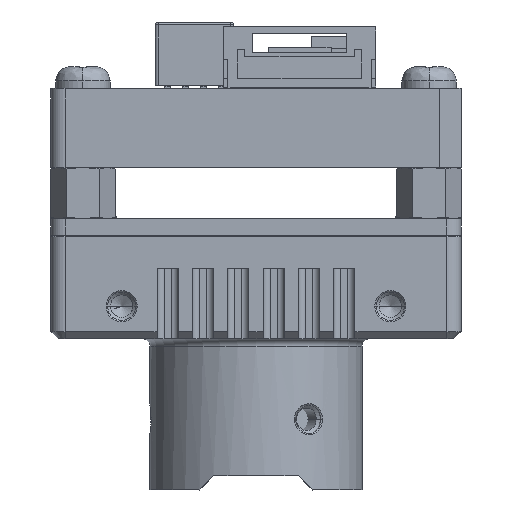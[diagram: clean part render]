
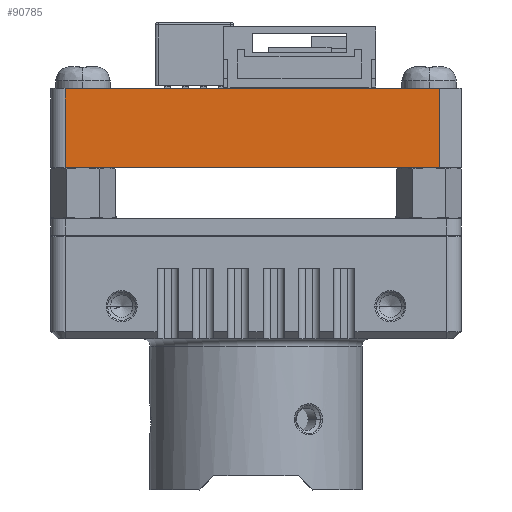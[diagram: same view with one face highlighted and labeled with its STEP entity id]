
A CAD part, left-side view. The second image highlights one B-rep face of the part: STEP entity #90785.
In plain terms, the highlighted planar face has unit normal (-1, 0, 0).
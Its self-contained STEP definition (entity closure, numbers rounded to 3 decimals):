
#2136=DIRECTION('',(0.,0.,-1.));
#2137=VECTOR('',#2136,5.6);
#2138=CARTESIAN_POINT('',(-14.5,-13.,10.4));
#2139=LINE('',#2138,#2137);
#2140=DIRECTION('',(0.,1.,0.));
#2141=VECTOR('',#2140,26.5);
#2142=CARTESIAN_POINT('',(-14.5,-13.,4.8));
#2143=LINE('',#2142,#2141);
#2144=DIRECTION('',(0.,0.,-1.));
#2145=VECTOR('',#2144,1.2);
#2146=CARTESIAN_POINT('',(-14.5,13.5,10.4));
#2147=LINE('',#2146,#2145);
#2148=DIRECTION('',(0.,0.,-1.));
#2149=VECTOR('',#2148,4.4);
#2150=CARTESIAN_POINT('',(-14.5,13.5,9.2));
#2151=LINE('',#2150,#2149);
#2282=DIRECTION('',(0.,1.,0.));
#2283=VECTOR('',#2282,26.5);
#2284=CARTESIAN_POINT('',(-14.5,-13.,10.4));
#2285=LINE('',#2284,#2283);
#75608=CARTESIAN_POINT('',(-14.5,-13.,4.8));
#75610=VERTEX_POINT('',#75608);
#75621=CARTESIAN_POINT('',(-14.5,13.5,4.8));
#75623=VERTEX_POINT('',#75621);
#81019=CARTESIAN_POINT('',(-14.5,-13.,10.4));
#81020=VERTEX_POINT('',#81019);
#81021=CARTESIAN_POINT('',(-14.5,13.5,10.4));
#81022=VERTEX_POINT('',#81021);
#89150=CARTESIAN_POINT('',(-14.5,13.5,9.2));
#89151=VERTEX_POINT('',#89150);
#90770=CARTESIAN_POINT('',(-14.5,0.25,5.4));
#90771=DIRECTION('',(1.,0.,0.));
#90772=DIRECTION('',(0.,-1.,0.));
#90773=AXIS2_PLACEMENT_3D('',#90770,#90771,#90772);
#90774=PLANE('',#90773);
#90776=ORIENTED_EDGE('',*,*,#90775,.F.);
#90778=ORIENTED_EDGE('',*,*,#90777,.F.);
#90780=ORIENTED_EDGE('',*,*,#90779,.F.);
#90781=ORIENTED_EDGE('',*,*,#90760,.T.);
#90782=ORIENTED_EDGE('',*,*,#89467,.T.);
#90783=EDGE_LOOP('',(#90776,#90778,#90780,#90781,#90782));
#90784=FACE_OUTER_BOUND('',#90783,.F.);
#90785=ADVANCED_FACE('',(#90784),#90774,.F.);
#89467=EDGE_CURVE('',#75610,#75623,#2143,.T.);
#90760=EDGE_CURVE('',#81020,#75610,#2139,.T.);
#90775=EDGE_CURVE('',#89151,#75623,#2151,.T.);
#90777=EDGE_CURVE('',#81022,#89151,#2147,.T.);
#90779=EDGE_CURVE('',#81020,#81022,#2285,.T.);
